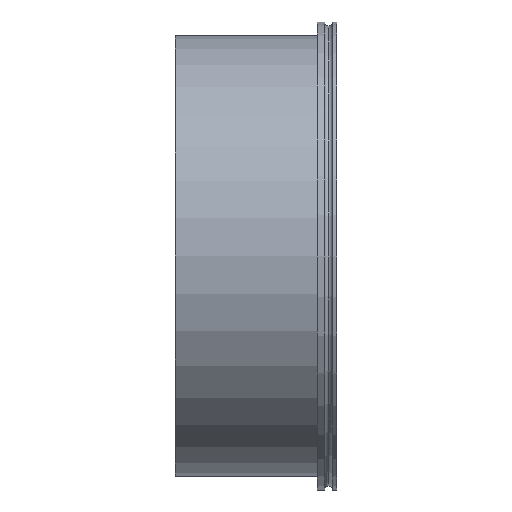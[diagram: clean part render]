
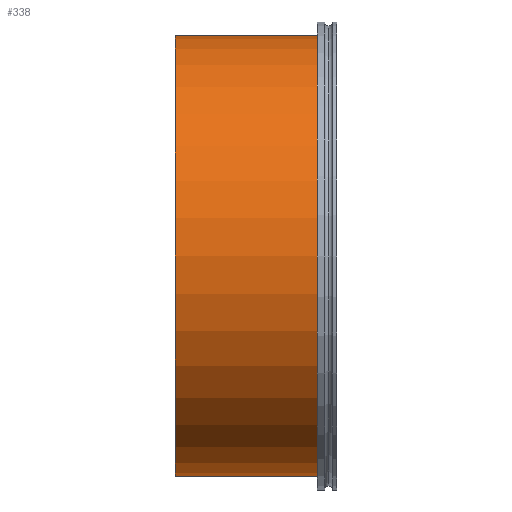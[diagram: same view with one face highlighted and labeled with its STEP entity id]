
A CAD part, left-side view. The second image highlights one B-rep face of the part: STEP entity #338.
In plain terms, the highlighted cylindrical face has radius 136.5 mm (diameter 273 mm), a partial arc.
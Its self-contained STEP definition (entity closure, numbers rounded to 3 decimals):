
#2 = EDGE_CURVE ( 'NONE', #511, #206, #416, .T. ) ;
#22 = FACE_OUTER_BOUND ( 'NONE', #24, .T. ) ;
#24 = EDGE_LOOP ( 'NONE', ( #186, #504, #631, #408 ) ) ;
#71 = AXIS2_PLACEMENT_3D ( 'NONE', #142, #526, #200 ) ;
#92 = CARTESIAN_POINT ( 'NONE',  ( 0., 100., 136.5 ) ) ;
#134 = CARTESIAN_POINT ( 'NONE',  ( 0., 8., 0. ) ) ;
#142 = CARTESIAN_POINT ( 'NONE',  ( 0., 100., 0. ) ) ;
#180 = EDGE_CURVE ( 'NONE', #336, #206, #515, .T. ) ;
#186 = ORIENTED_EDGE ( 'NONE', *, *, #2, .F. ) ;
#199 = AXIS2_PLACEMENT_3D ( 'NONE', #222, #333, #648 ) ;
#200 = DIRECTION ( 'NONE',  ( 0., 0., 1. ) ) ;
#206 = VERTEX_POINT ( 'NONE', #568 ) ;
#222 = CARTESIAN_POINT ( 'NONE',  ( 0., 100., 0. ) ) ;
#245 = CIRCLE ( 'NONE', #71, 136.5 ) ;
#270 = CARTESIAN_POINT ( 'NONE',  ( 0., 100., 136.5 ) ) ;
#273 = EDGE_CURVE ( 'NONE', #692, #336, #685, .T. ) ;
#333 = DIRECTION ( 'NONE',  ( 0., -1., 0. ) ) ;
#336 = VERTEX_POINT ( 'NONE', #603 ) ;
#338 = ADVANCED_FACE ( 'NONE', ( #22 ), #577, .T. ) ;
#347 = CARTESIAN_POINT ( 'NONE',  ( 0., 100., -136.5 ) ) ;
#348 = DIRECTION ( 'NONE',  ( 0., 0., 1. ) ) ;
#361 = DIRECTION ( 'NONE',  ( 0., -1., 0. ) ) ;
#408 = ORIENTED_EDGE ( 'NONE', *, *, #180, .T. ) ;
#409 = DIRECTION ( 'NONE',  ( 0., 1., 0. ) ) ;
#416 = LINE ( 'NONE', #92, #645 ) ;
#433 = CARTESIAN_POINT ( 'NONE',  ( 0., 100., -136.5 ) ) ;
#462 = EDGE_CURVE ( 'NONE', #692, #511, #245, .T. ) ;
#484 = DIRECTION ( 'NONE',  ( 0., -1., 0. ) ) ;
#504 = ORIENTED_EDGE ( 'NONE', *, *, #462, .F. ) ;
#511 = VERTEX_POINT ( 'NONE', #270 ) ;
#515 = CIRCLE ( 'NONE', #552, 136.5 ) ;
#526 = DIRECTION ( 'NONE',  ( 0., 1., 0. ) ) ;
#552 = AXIS2_PLACEMENT_3D ( 'NONE', #134, #409, #348 ) ;
#568 = CARTESIAN_POINT ( 'NONE',  ( 0., 8., 136.5 ) ) ;
#577 = CYLINDRICAL_SURFACE ( 'NONE', #199, 136.5 ) ;
#603 = CARTESIAN_POINT ( 'NONE',  ( 0., 8., -136.5 ) ) ;
#631 = ORIENTED_EDGE ( 'NONE', *, *, #273, .T. ) ;
#645 = VECTOR ( 'NONE', #361, 1000. ) ;
#648 = DIRECTION ( 'NONE',  ( 0., 0., -1. ) ) ;
#660 = VECTOR ( 'NONE', #484, 1000. ) ;
#685 = LINE ( 'NONE', #433, #660 ) ;
#692 = VERTEX_POINT ( 'NONE', #347 ) ;
